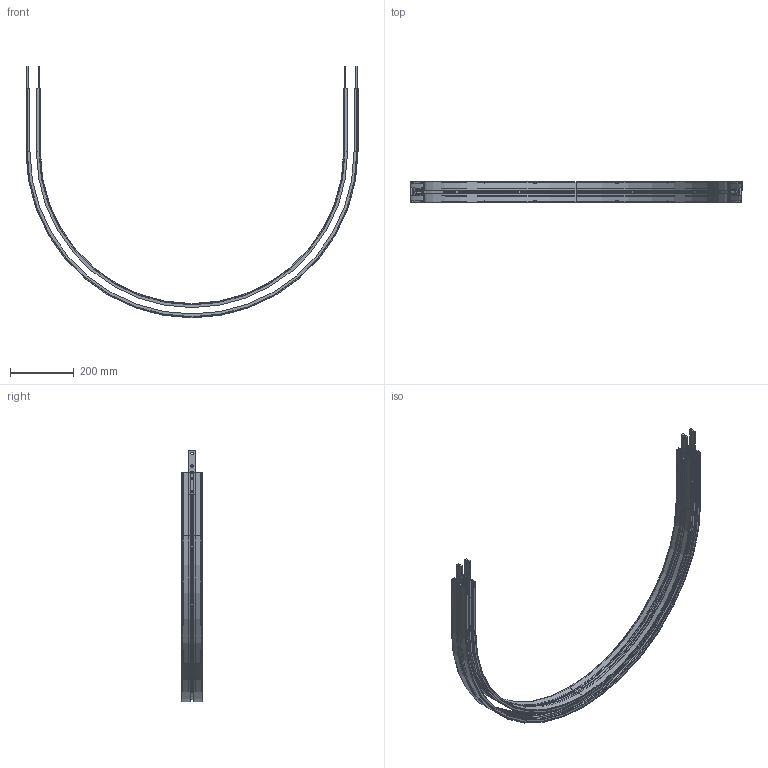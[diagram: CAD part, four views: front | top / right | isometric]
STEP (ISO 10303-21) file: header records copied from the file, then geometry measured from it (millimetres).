
FILE_DESCRIPTION (( 'STEP AP214' ), '1' );
FILE_NAME ('FKHB-180R500.STEP', '2012-03-20T14:22:09', ( 'gs' ), ( 'Microsoft' ), 'SwSTEP 2.0', 'SolidWorks 2011', '' );
FILE_SCHEMA (( 'AUTOMOTIVE_DESIGN' ));
Length unit declared in the file: millimetre
Products named in the file (3): FKHB-R500_Défaut<Brut d''usinage>; FACS-20; FKHB-180R500
Assembly tree (5 placements, depth 2):
  FKHB-180R500
    FACS-20  x4
    FKHB-R500_Défaut<Brut d''usinage>
Bounding box: 1045 x 65.4 x 792.5 mm (x, y, z)
Volume: 1292186.6 mm3; surface area: 1281060.1 mm2
Topology: 22 solids, 22 shells, 486 faces, 1318 edges, 876 vertices
Faces by surface type: plane 316, cylinder 140, cone 30
Entity records: 15161 total; most frequent: CARTESIAN_POINT 2358, ORIENTED_EDGE 2312, DIRECTION 2244, EDGE_CURVE 1156, VECTOR 936, LINE 936, VERTEX_POINT 768, AXIS2_PLACEMENT_3D 654
